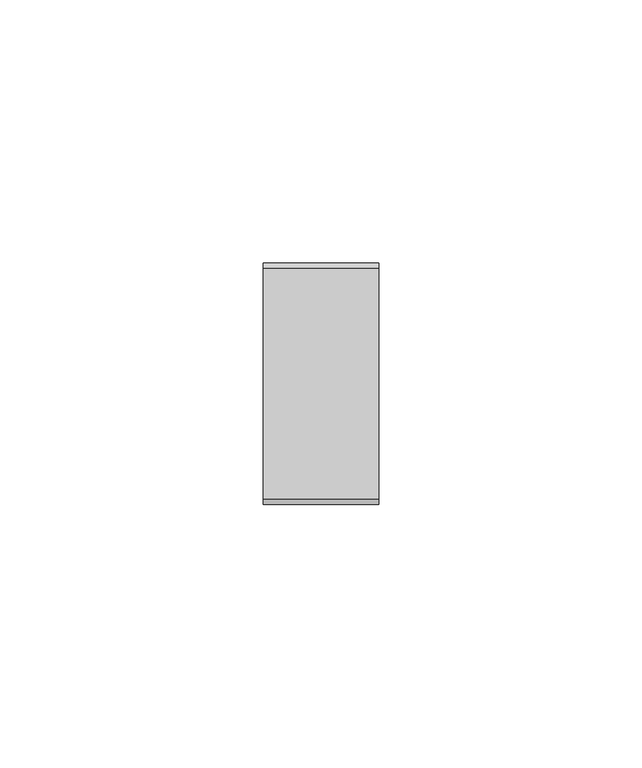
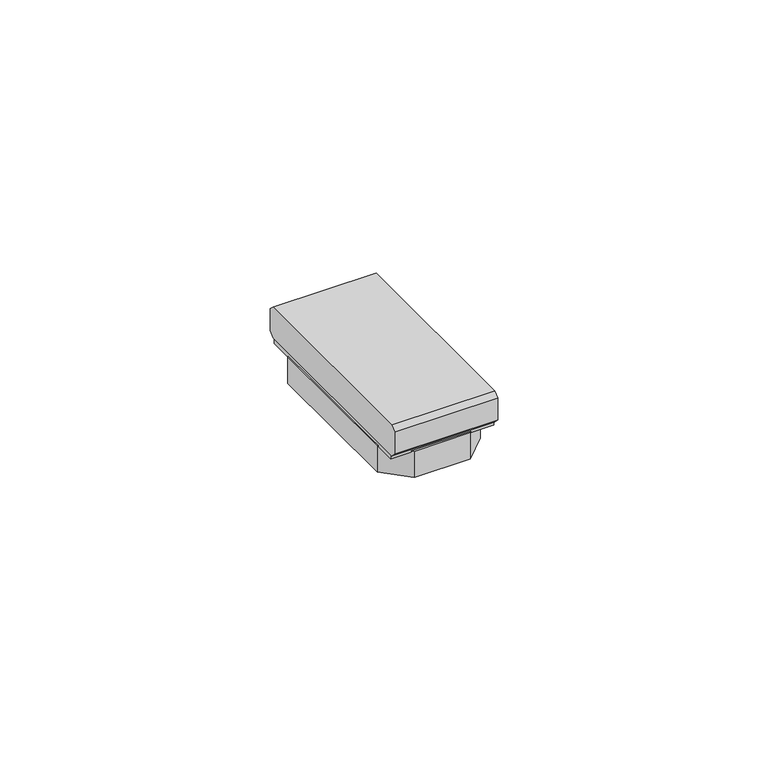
"""IFC4 building model written with IfcOpenShell, lengths in millimetres: proxy geometry, L4950 LI falso polo : L4950 LI falso polo."""

from ifc_helpers import new_model, si_unit, frame, origin, origin_with_axes, place, context, project, spatial, polyline, outline, extrude, source, transform, mapped, element, save


def electrical_fixtures_cdb56bab(model_context):
    return source(origin(), model_context, "Body", "SweptSolid", [
        extrude(outline(polyline([(-22.0, 1.0), (-22.9899495, 1.9899495), (-22.9899495, 6.9899495), (-22.0, 7.979899), (22.0, 7.979899), (22.9899495, 6.9899495), (22.9899495, 1.9899495), (22.0, 1.0), (-22.0, 1.0)])), frame((-11.0, 0.0, 0.0), z_axis=(1.0, 0.0, 0.0), x_axis=(0.0, 1.0, 0.0)), (0.0, 0.0, 1.0), 22.0),
        extrude(outline(polyline([(11.0, -16.5), (6.0, -21.5), (-6.0, -21.5), (-11.0, -16.5), (-11.0, 16.5), (-6.0, 21.5), (6.0, 21.5), (11.0, 16.5), (11.0, -16.5)])), frame((0.0, 0.0, -5.970078), z_axis=(0.0, 0.0, 1.0), x_axis=(1.0, 0.0, 0.0)), (0.0, 0.0, 1.0), 5.970078),
        extrude(outline(polyline([(11.0, -21.5), (-11.0, -21.5), (-11.0, 21.5), (11.0, 21.5), (11.0, -21.5)])), origin_with_axes(), (0.0, 0.0, 1.0), 1.0),
    ])


if __name__ == "__main__":
    model = new_model("IFC4")
    model_context = context("Model", 3, world=origin())
    ifc_project = project(units=[si_unit("LENGTHUNIT", "METRE", prefix="MILLI")], contexts=[model_context])
    site = spatial("IfcSite", under=ifc_project)
    building = spatial("IfcBuilding", under=site)
    placement = place(None, origin())
    electrical_fixtures_shape = electrical_fixtures_cdb56bab(model_context)
    element("IfcBuildingElementProxy", 1, Name="L4950 LI falso polo : L4950 LI falso polo", ObjectType="L4950 LI falso polo : L4950 LI falso polo", at=placement, inside=building, context=model_context, shape_type="MappedRepresentation", body=[
        mapped(electrical_fixtures_shape, transform((0.0, 0.0, 0.0), x_axis=(1.0, 0.0, 0.0), y_axis=(0.0, 1.0, 0.0), z_axis=(0.0, 0.0, 1.0))),
    ])
    save(model, "model.ifc")
